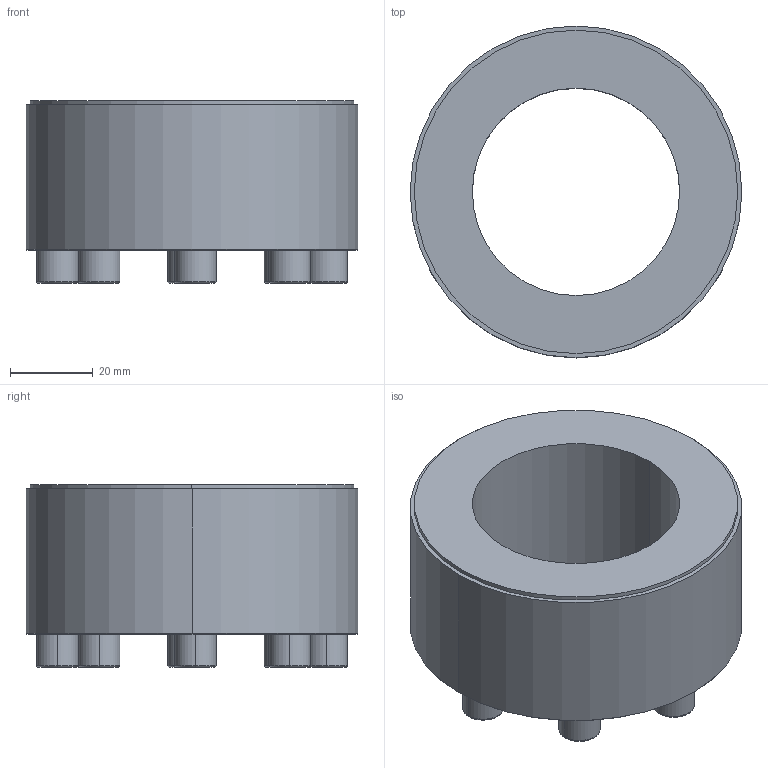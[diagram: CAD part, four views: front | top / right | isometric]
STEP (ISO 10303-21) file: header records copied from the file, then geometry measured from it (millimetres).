
FILE_DESCRIPTION (( 'STEP AP203' ), '1' );
FILE_NAME ('PL-B 50-80.STEP', '2021-10-22T07:48:26', ( '' ), ( '' ), 'SwSTEP 2.0', 'SolidWorks 2018', '' );
FILE_SCHEMA (( 'CONFIG_CONTROL_DESIGN' ));
Length unit declared in the file: millimetre
Products named in the file (1): PL-B 50-80
Bounding box: 80 x 80 x 44 mm (x, y, z)
Volume: 114029.3 mm3; surface area: 23395.5 mm2
Topology: 1 solids, 1 shells, 109 faces, 250 edges, 160 vertices
Faces by surface type: plane 67, cylinder 22, torus 16, cone 4
Entity records: 3145 total; most frequent: DIRECTION 550, CARTESIAN_POINT 520, ORIENTED_EDGE 500, EDGE_CURVE 250, AXIS2_PLACEMENT_3D 190, VECTOR 170, LINE 170, VERTEX_POINT 160
